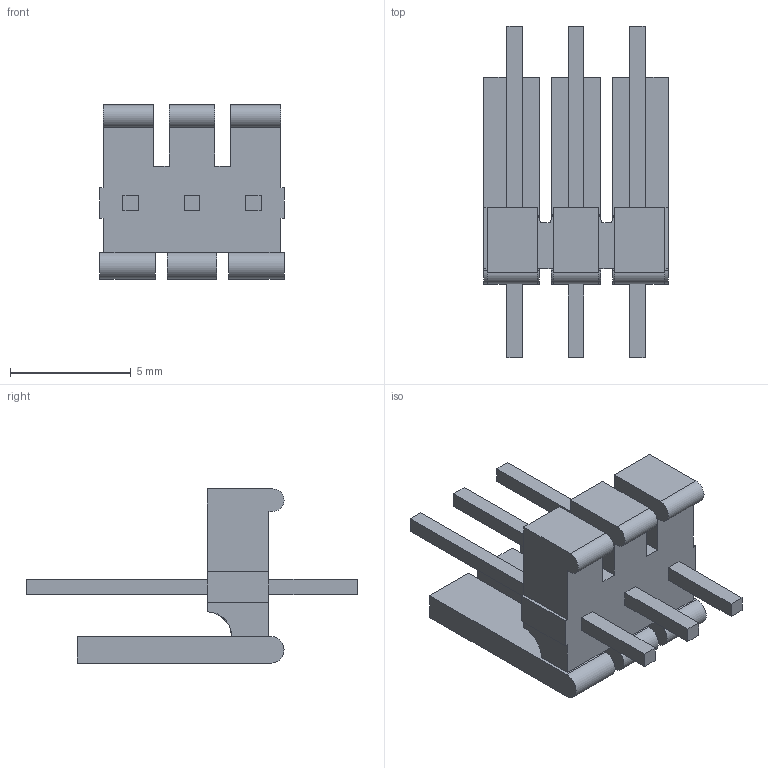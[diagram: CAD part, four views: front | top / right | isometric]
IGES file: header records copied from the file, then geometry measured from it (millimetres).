
Start section:  PTC IGES file: 022283030.igs
Global section: file name: 022283030.igs; native system: Creo Parametric by Parametric Technology Corporation; preprocessor: 2011490; author: gga; organization: Unknown; date: 20130207.151900; units: inch
Bounding box: 7.62 x 13.72 x 7.21 mm (x, y, z)
Volume: 176.8 mm3; surface area: 433.4 mm2
Topology: 1 solids, 1 shells, 87 faces, 236 edges, 158 vertices
Faces by surface type: bspline 80, revolution 7
